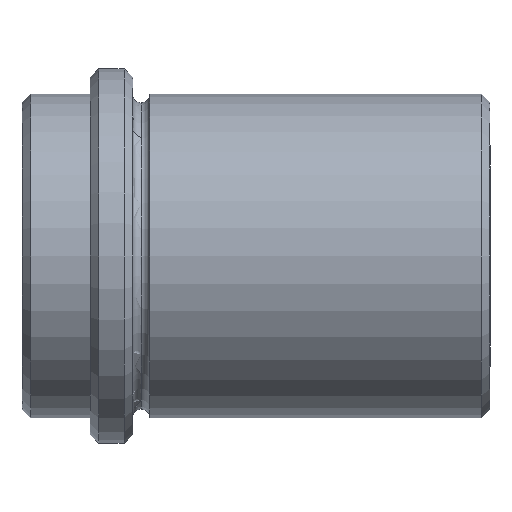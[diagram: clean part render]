
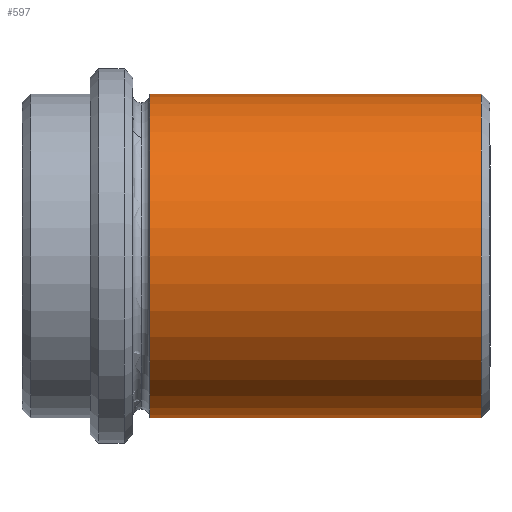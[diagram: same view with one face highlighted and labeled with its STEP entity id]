
A CAD part, left-side view. The second image highlights one B-rep face of the part: STEP entity #597.
In plain terms, the highlighted cylindrical face has radius 19 mm (diameter 38 mm), a partial arc.
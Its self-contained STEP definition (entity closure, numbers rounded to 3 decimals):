
#433=CARTESIAN_POINT('Vertex',(0.,40.,19.)) ;
#440=CARTESIAN_POINT('Vertex',(0.,40.,-19.)) ;
#466=CARTESIAN_POINT('Axis2P3D Location',(0.,40.,0.)) ;
#470=CARTESIAN_POINT('Vertex',(-19.,40.,0.)) ;
#473=CARTESIAN_POINT('Axis2P3D Location',(0.,40.,0.)) ;
#537=CARTESIAN_POINT('Line Origine',(0.,0.,-19.)) ;
#541=CARTESIAN_POINT('Vertex',(0.,1.,-19.)) ;
#544=CARTESIAN_POINT('Line Origine',(0.,0.,19.)) ;
#548=CARTESIAN_POINT('Vertex',(0.,1.,19.)) ;
#572=CARTESIAN_POINT('Axis2P3D Location',(0.,0.,0.)) ;
#577=CARTESIAN_POINT('Axis2P3D Location',(0.,1.,0.)) ;
#581=CARTESIAN_POINT('Vertex',(-19.,1.,0.)) ;
#584=CARTESIAN_POINT('Axis2P3D Location',(0.,1.,0.)) ;
#467=DIRECTION('Axis2P3D Direction',(0.,-1.,0.)) ;
#474=DIRECTION('Axis2P3D Direction',(0.,-1.,0.)) ;
#538=DIRECTION('Vector Direction',(0.,1.,0.)) ;
#545=DIRECTION('Vector Direction',(0.,1.,0.)) ;
#573=DIRECTION('Axis2P3D Direction',(0.,1.,0.)) ;
#574=DIRECTION('Axis2P3D XDirection',(0.,0.,-1.)) ;
#578=DIRECTION('Axis2P3D Direction',(0.,1.,0.)) ;
#585=DIRECTION('Axis2P3D Direction',(0.,1.,0.)) ;
#468=AXIS2_PLACEMENT_3D('Circle Axis2P3D',#466,#467,$) ;
#475=AXIS2_PLACEMENT_3D('Circle Axis2P3D',#473,#474,$) ;
#575=AXIS2_PLACEMENT_3D('Cylinder Axis2P3D',#572,#573,#574) ;
#579=AXIS2_PLACEMENT_3D('Circle Axis2P3D',#577,#578,$) ;
#586=AXIS2_PLACEMENT_3D('Circle Axis2P3D',#584,#585,$) ;
#590=ORIENTED_EDGE('',*,*,#550,.T.) ;
#591=ORIENTED_EDGE('',*,*,#477,.T.) ;
#592=ORIENTED_EDGE('',*,*,#472,.T.) ;
#593=ORIENTED_EDGE('',*,*,#543,.T.) ;
#594=ORIENTED_EDGE('',*,*,#583,.F.) ;
#595=ORIENTED_EDGE('',*,*,#588,.F.) ;
#539=VECTOR('Line Direction',#538,1.) ;
#546=VECTOR('Line Direction',#545,1.) ;
#597=ADVANCED_FACE('CF 439 24x55',(#596),#576,.T.) ;
#469=CIRCLE('generated circle',#468,19.) ;
#476=CIRCLE('generated circle',#475,19.) ;
#580=CIRCLE('generated circle',#579,19.) ;
#587=CIRCLE('generated circle',#586,19.) ;
#576=CYLINDRICAL_SURFACE('generated cylinder',#575,19.) ;
#472=EDGE_CURVE('',#471,#441,#469,.T.) ;
#477=EDGE_CURVE('',#434,#471,#476,.T.) ;
#543=EDGE_CURVE('',#441,#542,#540,.F.) ;
#550=EDGE_CURVE('',#549,#434,#547,.T.) ;
#583=EDGE_CURVE('',#582,#542,#580,.F.) ;
#588=EDGE_CURVE('',#549,#582,#587,.F.) ;
#589=EDGE_LOOP('',(#590,#591,#592,#593,#594,#595)) ;
#596=FACE_OUTER_BOUND('',#589,.T.) ;
#540=LINE('Line',#537,#539) ;
#547=LINE('Line',#544,#546) ;
#434=VERTEX_POINT('',#433) ;
#441=VERTEX_POINT('',#440) ;
#471=VERTEX_POINT('',#470) ;
#542=VERTEX_POINT('',#541) ;
#549=VERTEX_POINT('',#548) ;
#582=VERTEX_POINT('',#581) ;
